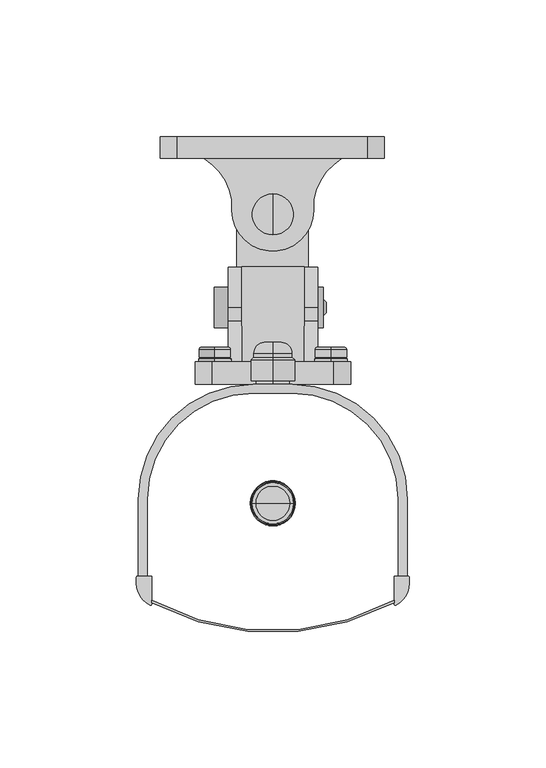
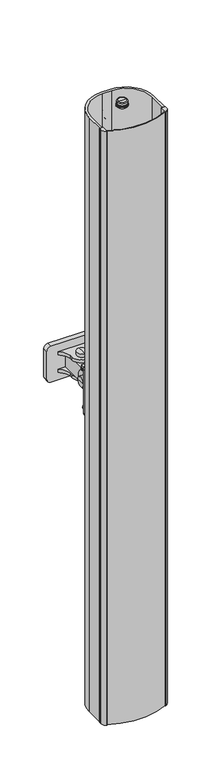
"""IFC4 building model written with IfcOpenShell, lengths in millimetres: proxy geometry, TS-C 50-1000_T-EN54 : TS-C 50-1000/T-EN54."""

from ifc_helpers import new_model, si_unit, point, frame, frame_2d, origin, place, context, project, spatial, polyline, circle_curve, ellipse_curve, trimmed, segment, composite_curve, outline, extrude, source, transform, mapped, element, save
from ifc_brep_helpers import plane_surface, cylinder_surface, revolved_surface, advanced_brep


def communication_devices_d0b5417b(model_context):
    return source(origin(), model_context, "Body", "SolidModel", [
        advanced_brep(
        [(-21.25, 9.0, 463.0997739), (-21.25, 9.0, 451.137496), (-21.25, 10.139588, 451.137496), (-21.25, 10.139588, 463.0997739), (-21.25, 9.0, 457.118635), (-21.25, 14.25, 462.1978352), (-21.25, 14.25, 452.0394348), (-21.25, 14.25, 457.118635), (-21.25, 13.5810517, 462.8667835), (-21.25, 13.5810517, 451.3704864), (-21.25, 10.600008, 462.8667835), (-21.25, 10.600008, 451.3704864), (-21.25, 10.600008, 461.8347804), (-21.25, 10.600008, 452.4024896)],
        [
            (0, 1, circle_curve(frame((-21.25, 9.0, 457.118635), z_axis=(0.0, 1.0, 0.0), x_axis=(0.0, 0.0, -1.0)), 5.981139)),
            (1, 2),
            (2, 3, circle_curve(frame((-21.25, 10.139588, 457.118635), z_axis=(0.0, -1.0, 0.0), x_axis=(0.0, 0.0, -1.0)), 5.981139)),
            (3, 0),
            (1, 0, circle_curve(frame((-21.25, 9.0, 457.118635), z_axis=(0.0, 1.0, 0.0), x_axis=(0.0, 0.0, -1.0)), 5.981139)),
            (3, 2, circle_curve(frame((-21.25, 10.139588, 457.118635), z_axis=(0.0, -1.0, 0.0), x_axis=(0.0, 0.0, -1.0)), 5.981139)),
            (4, 1),
            (0, 4),
            (5, 6, circle_curve(frame((-21.25, 14.25, 457.118635), z_axis=(0.0, 1.0, 0.0), x_axis=(0.0, 0.0, -1.0)), 5.0792002)),
            (6, 7),
            (7, 5),
            (6, 5, circle_curve(frame((-21.25, 14.25, 457.118635), z_axis=(0.0, 1.0, 0.0), x_axis=(0.0, 0.0, -1.0)), 5.0792002)),
            (8, 9, circle_curve(frame((-21.25, 13.5810517, 457.118635), z_axis=(0.0, 1.0, 0.0), x_axis=(0.0, 0.0, -1.0)), 5.7481485)),
            (9, 6, circle_curve(frame((-21.25, 13.5810517, 452.0394348), z_axis=(1.0, 0.0, 0.0), x_axis=(0.0, 1.0, 0.0)), 0.6689483)),
            (5, 8, circle_curve(frame((-21.25, 13.5810517, 462.1978352), z_axis=(1.0, 0.0, 0.0), x_axis=(0.0, 1.0, 0.0)), 0.6689483)),
            (9, 8, circle_curve(frame((-21.25, 13.5810517, 457.118635), z_axis=(0.0, 1.0, 0.0), x_axis=(0.0, 0.0, -1.0)), 5.7481485)),
            (10, 11, circle_curve(frame((-21.25, 10.600008, 457.118635), z_axis=(0.0, 1.0, 0.0), x_axis=(0.0, 0.0, -1.0)), 5.7481485)),
            (11, 9),
            (8, 10),
            (11, 10, circle_curve(frame((-21.25, 10.600008, 457.118635), z_axis=(0.0, 1.0, 0.0), x_axis=(0.0, 0.0, -1.0)), 5.7481485)),
            (12, 13, circle_curve(frame((-21.25, 10.600008, 457.118635), z_axis=(0.0, 1.0, 0.0), x_axis=(0.0, 0.0, -1.0)), 4.7161454)),
            (13, 11),
            (10, 12),
            (13, 12, circle_curve(frame((-21.25, 10.600008, 457.118635), z_axis=(0.0, 1.0, 0.0), x_axis=(0.0, 0.0, -1.0)), 4.7161454)),
            (2, 13),
            (12, 3),
        ],
        [
            cylinder_surface(frame((-21.25, 12.3716321, 457.118635), z_axis=(0.0, -1.0, 0.0), x_axis=(0.0, 0.0, -1.0)), 5.981139),
            plane_surface(frame((-21.25, 9.0, 457.118635), z_axis=(0.0, -1.0, 0.0), x_axis=(0.0, 0.0, -1.0))),
            plane_surface(frame((-21.25, 14.25, 457.118635), z_axis=(0.0, 1.0, 0.0), x_axis=(0.0, 0.0, -1.0))),
            revolved_surface(trimmed(ellipse_curve(frame((-21.25, 13.5810517, 452.0394348), z_axis=(-1.0, 0.0, 0.0), x_axis=(0.0, 1.0, 0.0)), 0.6689483, 0.6689483), [point((-21.25, 14.25, 452.0394348))], [point((-21.25, 13.5810517, 451.3704864))], True, "CARTESIAN"), (-21.25, 12.3716321, 457.118635), (0.0, -1.0, 0.0)),
            cylinder_surface(frame((-21.25, 12.3716321, 457.118635), z_axis=(0.0, -1.0, 0.0), x_axis=(0.0, 0.0, -1.0)), 5.7481485),
            plane_surface(frame((-21.25, 10.600008, 457.118635), z_axis=(0.0, -1.0, 0.0), x_axis=(0.0, 0.0, -1.0))),
            revolved_surface(polyline([(-21.25, 10.600008, 452.4024896), (-21.25, 10.139588, 451.137496)]), (-21.25, 12.3716321, 457.118635), (0.0, -1.0, 0.0)),
        ],
        [
            (0, [[1, 2, 3, 4]]),
            (0, [[5, -4, 6, -2]]),
            (1, [[7, -1, 8]]),
            (1, [[-8, -5, -7]]),
            (2, [[9, 10, 11]]),
            (2, [[12, -11, -10]]),
            (3, [[13, 14, -9, 15]]),
            (3, [[16, -15, -12, -14]]),
            (4, [[17, 18, -13, 19]]),
            (4, [[20, -19, -16, -18]]),
            (5, [[21, 22, -17, 23]]),
            (5, [[24, -23, -20, -22]]),
            (6, [[-3, 25, -21, 26]]),
            (6, [[-6, -26, -24, -25]]),
        ],
    ),
        advanced_brep(
        [(21.25, 10.139588, 463.0997739), (21.25, 10.139588, 451.137496), (21.25, 9.0, 451.137496), (21.25, 9.0, 463.0997739), (21.25, 9.0, 457.118635), (21.25, 14.25, 457.118635), (21.25, 14.25, 452.0394348), (21.25, 14.25, 462.1978352), (21.25, 13.5810517, 451.3704864), (21.25, 13.5810517, 462.8667835), (21.25, 10.600008, 451.3704864), (21.25, 10.600008, 462.8667835), (21.25, 10.600008, 452.4024896), (21.25, 10.600008, 461.8347804)],
        [
            (0, 1, circle_curve(frame((21.25, 10.139588, 457.118635), z_axis=(0.0, -1.0, 0.0), x_axis=(0.0, 0.0, -1.0)), 5.981139)),
            (1, 2),
            (2, 3, circle_curve(frame((21.25, 9.0, 457.118635), z_axis=(0.0, 1.0, 0.0), x_axis=(0.0, 0.0, -1.0)), 5.981139)),
            (3, 0),
            (1, 0, circle_curve(frame((21.25, 10.139588, 457.118635), z_axis=(0.0, -1.0, 0.0), x_axis=(0.0, 0.0, -1.0)), 5.981139)),
            (3, 2, circle_curve(frame((21.25, 9.0, 457.118635), z_axis=(0.0, 1.0, 0.0), x_axis=(0.0, 0.0, -1.0)), 5.981139)),
            (2, 4),
            (4, 3),
            (5, 6),
            (6, 7, circle_curve(frame((21.25, 14.25, 457.118635), z_axis=(0.0, 1.0, 0.0), x_axis=(0.0, 0.0, -1.0)), 5.0792002)),
            (7, 5),
            (7, 6, circle_curve(frame((21.25, 14.25, 457.118635), z_axis=(0.0, 1.0, 0.0), x_axis=(0.0, 0.0, -1.0)), 5.0792002)),
            (6, 8, circle_curve(frame((21.25, 13.5810517, 452.0394348), z_axis=(-1.0, 0.0, 0.0), x_axis=(0.0, 1.0, 0.0)), 0.6689483)),
            (8, 9, circle_curve(frame((21.25, 13.5810517, 457.118635), z_axis=(0.0, 1.0, 0.0), x_axis=(0.0, 0.0, -1.0)), 5.7481485)),
            (9, 7, circle_curve(frame((21.25, 13.5810517, 462.1978352), z_axis=(-1.0, 0.0, 0.0), x_axis=(0.0, 1.0, 0.0)), 0.6689483)),
            (9, 8, circle_curve(frame((21.25, 13.5810517, 457.118635), z_axis=(0.0, 1.0, 0.0), x_axis=(0.0, 0.0, -1.0)), 5.7481485)),
            (8, 10),
            (10, 11, circle_curve(frame((21.25, 10.600008, 457.118635), z_axis=(0.0, 1.0, 0.0), x_axis=(0.0, 0.0, -1.0)), 5.7481485)),
            (11, 9),
            (11, 10, circle_curve(frame((21.25, 10.600008, 457.118635), z_axis=(0.0, 1.0, 0.0), x_axis=(0.0, 0.0, -1.0)), 5.7481485)),
            (10, 12),
            (12, 13, circle_curve(frame((21.25, 10.600008, 457.118635), z_axis=(0.0, 1.0, 0.0), x_axis=(0.0, 0.0, -1.0)), 4.7161454)),
            (13, 11),
            (13, 12, circle_curve(frame((21.25, 10.600008, 457.118635), z_axis=(0.0, 1.0, 0.0), x_axis=(0.0, 0.0, -1.0)), 4.7161454)),
            (12, 1),
            (0, 13),
        ],
        [
            cylinder_surface(frame((21.25, 12.3716321, 457.118635), z_axis=(0.0, 1.0, 0.0), x_axis=(0.0, 0.0, -1.0)), 5.981139),
            plane_surface(frame((21.25, 9.0, 457.118635), z_axis=(0.0, -1.0, 0.0), x_axis=(0.0, 0.0, -1.0))),
            plane_surface(frame((21.25, 14.25, 457.118635), z_axis=(0.0, 1.0, 0.0), x_axis=(0.0, 0.0, -1.0))),
            revolved_surface(trimmed(ellipse_curve(frame((21.25, 13.5810517, 452.0394348), z_axis=(1.0, 0.0, 0.0), x_axis=(0.0, 1.0, 0.0)), 0.6689483, 0.6689483), [point((21.25, 13.5810517, 451.3704864))], [point((21.25, 14.25, 452.0394348))], True, "CARTESIAN"), (21.25, 12.3716321, 457.118635), (0.0, 1.0, 0.0)),
            cylinder_surface(frame((21.25, 12.3716321, 457.118635), z_axis=(0.0, 1.0, 0.0), x_axis=(0.0, 0.0, -1.0)), 5.7481485),
            plane_surface(frame((21.25, 10.600008, 457.118635), z_axis=(0.0, -1.0, 0.0), x_axis=(0.0, 0.0, -1.0))),
            revolved_surface(polyline([(21.25, 10.139588, 451.137496), (21.25, 10.600008, 452.4024896)]), (21.25, 12.3716321, 457.118635), (0.0, 1.0, 0.0)),
        ],
        [
            (0, [[1, 2, 3, 4]]),
            (0, [[5, -4, 6, -2]]),
            (1, [[-3, 7, 8]]),
            (1, [[-6, -8, -7]]),
            (2, [[9, 10, 11]]),
            (2, [[-11, 12, -9]]),
            (3, [[-10, 13, 14, 15]]),
            (3, [[-12, -15, 16, -13]]),
            (4, [[-14, 17, 18, 19]]),
            (4, [[-16, -19, 20, -17]]),
            (5, [[-18, 21, 22, 23]]),
            (5, [[-20, -23, 24, -21]]),
            (6, [[-22, 25, -1, 26]]),
            (6, [[-24, -26, -5, -25]]),
        ],
    ),
        advanced_brep(
        [(0.0, 61.007476, 467.199996), (0.0, 64.992524, 467.199996), (0.0, 63.0, 467.199996), (0.0, 60.007476, 468.199996), (0.0, 65.992524, 468.199996), (0.0, 55.5, 468.199996), (0.0, 70.5, 468.199996), (0.0, 55.5, 508.199996), (0.0, 70.5, 508.199996), (0.0, 63.0, 508.199996)],
        [
            (0, 1, circle_curve(frame((0.0, 63.0, 467.199996), z_axis=(0.0, 0.0, -1.0), x_axis=(0.0, 1.0, 0.0)), 1.992524)),
            (1, 2),
            (2, 0),
            (1, 0, circle_curve(frame((0.0, 63.0, 467.199996), z_axis=(0.0, 0.0, -1.0), x_axis=(0.0, 1.0, 0.0)), 1.992524)),
            (3, 4, circle_curve(frame((0.0, 63.0, 468.199996), z_axis=(0.0, 0.0, -1.0), x_axis=(0.0, 1.0, 0.0)), 2.992524)),
            (4, 1),
            (0, 3),
            (4, 3, circle_curve(frame((0.0, 63.0, 468.199996), z_axis=(0.0, 0.0, -1.0), x_axis=(0.0, 1.0, 0.0)), 2.992524)),
            (5, 6, circle_curve(frame((0.0, 63.0, 468.199996), z_axis=(0.0, 0.0, -1.0), x_axis=(0.0, 1.0, 0.0)), 7.5)),
            (6, 4),
            (3, 5),
            (6, 5, circle_curve(frame((0.0, 63.0, 468.199996), z_axis=(0.0, 0.0, -1.0), x_axis=(0.0, 1.0, 0.0)), 7.5)),
            (7, 8, circle_curve(frame((0.0, 63.0, 508.199996), z_axis=(0.0, 0.0, -1.0), x_axis=(0.0, 1.0, 0.0)), 7.5)),
            (8, 6),
            (5, 7),
            (8, 7, circle_curve(frame((0.0, 63.0, 508.199996), z_axis=(0.0, 0.0, -1.0), x_axis=(0.0, 1.0, 0.0)), 7.5)),
            (9, 8),
            (7, 9),
        ],
        [
            plane_surface(frame((0.0, 63.0, 467.199996), z_axis=(0.0, 0.0, -1.0), x_axis=(0.0, 1.0, 0.0))),
            revolved_surface(polyline([(0.0, 64.992524, 467.199996), (0.0, 65.992524, 468.199996)]), (0.0, 63.0, 481.5973632), (0.0, 0.0, 1.0)),
            plane_surface(frame((0.0, 63.0, 468.199996), z_axis=(0.0, 0.0, -1.0), x_axis=(0.0, 1.0, 0.0))),
            cylinder_surface(frame((0.0, 63.0, 481.5973632), z_axis=(0.0, 0.0, 1.0), x_axis=(0.0, 1.0, 0.0)), 7.5),
            plane_surface(frame((0.0, 63.0, 508.199996), z_axis=(0.0, 0.0, 1.0), x_axis=(0.0, 1.0, 0.0))),
        ],
        [
            (0, [[1, 2, 3]]),
            (0, [[4, -3, -2]]),
            (1, [[5, 6, -1, 7]]),
            (1, [[8, -7, -4, -6]]),
            (2, [[9, 10, -5, 11]]),
            (2, [[12, -11, -8, -10]]),
            (3, [[13, 14, -9, 15]]),
            (3, [[16, -15, -12, -14]]),
            (4, [[17, -13, 18]]),
            (4, [[-18, -16, -17]]),
        ],
    ),
        advanced_brep(
        [(-21.5, 21.375002, 486.875), (-21.5, 36.375, 486.875), (18.5, 36.375, 486.875), (18.5, 21.375002, 486.875), (-21.5, 28.875001, 486.875), (19.5, 26.882478, 486.875), (19.5, 30.867524, 486.875), (19.5, 28.875001, 486.875), (18.5, 25.882478, 486.875), (18.5, 31.867524, 486.875)],
        [
            (0, 1, circle_curve(frame((-21.5, 28.875001, 486.875), z_axis=(1.0, 0.0, 0.0), x_axis=(0.0, 1.0, 0.0)), 7.499999)),
            (1, 2),
            (2, 3, circle_curve(frame((18.5, 28.875001, 486.875), z_axis=(-1.0, 0.0, 0.0), x_axis=(0.0, 1.0, 0.0)), 7.499999)),
            (3, 0),
            (1, 0, circle_curve(frame((-21.5, 28.875001, 486.875), z_axis=(1.0, 0.0, 0.0), x_axis=(0.0, 1.0, 0.0)), 7.499999)),
            (3, 2, circle_curve(frame((18.5, 28.875001, 486.875), z_axis=(-1.0, 0.0, 0.0), x_axis=(0.0, 1.0, 0.0)), 7.499999)),
            (4, 1),
            (0, 4),
            (5, 6, circle_curve(frame((19.5, 28.875001, 486.875), z_axis=(1.0, 0.0, 0.0), x_axis=(0.0, 1.0, 0.0)), 1.992523)),
            (6, 7),
            (7, 5),
            (6, 5, circle_curve(frame((19.5, 28.875001, 486.875), z_axis=(1.0, 0.0, 0.0), x_axis=(0.0, 1.0, 0.0)), 1.992523)),
            (8, 9, circle_curve(frame((18.5, 28.875001, 486.875), z_axis=(1.0, 0.0, 0.0), x_axis=(0.0, 1.0, 0.0)), 2.992523)),
            (9, 6),
            (5, 8),
            (9, 8, circle_curve(frame((18.5, 28.875001, 486.875), z_axis=(1.0, 0.0, 0.0), x_axis=(0.0, 1.0, 0.0)), 2.992523)),
            (2, 9),
            (8, 3),
        ],
        [
            cylinder_surface(frame((-3.4349086, 28.875001, 486.875), z_axis=(-1.0, 0.0, 0.0), x_axis=(0.0, 1.0, 0.0)), 7.499999),
            plane_surface(frame((-21.5, 28.875001, 486.875), z_axis=(-1.0, 0.0, 0.0), x_axis=(0.0, 1.0, 0.0))),
            plane_surface(frame((19.5, 28.875001, 486.875), z_axis=(1.0, 0.0, 0.0), x_axis=(0.0, 1.0, 0.0))),
            revolved_surface(polyline([(19.5, 30.867524, 486.875), (18.5, 31.867524, 486.875)]), (-3.4349086, 28.875001, 486.875), (-1.0, 0.0, 0.0)),
            plane_surface(frame((18.5, 28.875001, 486.875), z_axis=(1.0, 0.0, 0.0), x_axis=(0.0, 1.0, 0.0))),
        ],
        [
            (0, [[1, 2, 3, 4]]),
            (0, [[5, -4, 6, -2]]),
            (1, [[7, -1, 8]]),
            (1, [[-8, -5, -7]]),
            (2, [[9, 10, 11]]),
            (2, [[12, -11, -10]]),
            (3, [[13, 14, -9, 15]]),
            (3, [[16, -15, -12, -14]]),
            (4, [[-3, 17, -13, 18]]),
            (4, [[-6, -18, -16, -17]]),
        ],
    ),
        extrude(outline(composite_curve([segment(trimmed(circle_curve(frame_2d((509.199996, -35.2248208)), 6.0), [point((515.199996, -35.2248208))], [point((509.199996, -41.2248208))], False, "CARTESIAN"), True, "CONTINUOUS"), segment(polyline([(509.199996, -41.2248208), (464.199996, -41.2248208)]), True, "CONTINUOUS"), segment(trimmed(circle_curve(frame_2d((464.199996, -35.2248208)), 6.0), [point((464.199996, -41.2248208))], [point((458.199996, -35.2248208))], False, "CARTESIAN"), True, "CONTINUOUS"), segment(polyline([(458.199996, -35.2248208), (458.199996, 34.7751792)]), True, "CONTINUOUS"), segment(trimmed(circle_curve(frame_2d((464.199996, 34.7751792)), 6.0), [point((458.199996, 34.7751792))], [point((464.199996, 40.7751792))], False, "CARTESIAN"), True, "CONTINUOUS"), segment(polyline([(464.199996, 40.7751792), (509.199996, 40.7751792)]), True, "CONTINUOUS"), segment(trimmed(circle_curve(frame_2d((509.199996, 34.7751792)), 6.0), [point((509.199996, 40.7751792))], [point((515.199996, 34.7751792))], False, "CARTESIAN"), True, "CONTINUOUS"), segment(polyline([(515.199996, 34.7751792), (515.199996, -35.2248208)]), True, "CONTINUOUS")], self_intersect=False)), frame((0.0, 83.5, 0.0), z_axis=(0.0, 1.0, 0.0), x_axis=(0.0, 0.0, 1.0)), (0.0, 0.0, 1.0), 8.0),
        extrude(outline(polyline([(-13.2981208, 43.774882), (-13.2981208, 83.5), (13.0, 83.5), (13.0, 43.774882), (-13.2981208, 43.774882)])), frame((0.0, 0.0, 475.2284716), z_axis=(0.0, 0.0, 1.0), x_axis=(1.0, 0.0, 0.0)), (0.0, 0.0, 1.0), 22.9715244),
        extrude(outline(polyline([(11.5, 43.774882), (11.5, 9.0), (-11.421106, 9.0), (-11.421106, 43.774882), (11.5, 43.774882)])), frame((0.0, 0.0, 470.2284716), z_axis=(0.0, 0.0, 1.0), x_axis=(1.0, 0.0, 0.0)), (0.0, 0.0, 1.0), 31.4715244),
        extrude(outline(composite_curve([segment(trimmed(circle_curve(frame_2d((28.774882, 486.699996)), 15.0), [point((28.774882, 501.699996))], [point((28.774882, 471.699996))], False, "CARTESIAN"), True, "CONTINUOUS"), segment(polyline([(28.774882, 471.699996), (24.01576, 471.699996)]), True, "CONTINUOUS"), segment(trimmed(circle_curve(frame_2d((27.899538, 449.92778)), 22.115902), [point((24.01576, 471.699996))], [point((9.0, 461.4134487))], True, "CARTESIAN"), True, "CONTINUOUS"), segment(polyline([(9.0, 461.4134487), (9.0, 511.9865453)]), True, "CONTINUOUS"), segment(trimmed(circle_curve(frame_2d((27.899538, 523.472214)), 22.115902), [point((9.0, 511.9865453))], [point((24.0157712, 501.699996))], True, "CARTESIAN"), True, "CONTINUOUS"), segment(polyline([(24.0157712, 501.699996), (28.774882, 501.699996)]), True, "CONTINUOUS")], self_intersect=False)), frame((-16.421106, 0.0, 0.0), z_axis=(1.0, 0.0, 0.0), x_axis=(0.0, 1.0, 0.0)), (0.0, 0.0, 1.0), 5.0),
        extrude(outline(composite_curve([segment(trimmed(circle_curve(frame_2d((0.0, 64.5832153)), 15.0), [point((15.0, 64.5832153))], [point((-15.0, 64.5832153))], False, "CARTESIAN"), True, "CONTINUOUS"), segment(polyline([(-15.0, 64.5832153), (-15.0, 68.4842168)]), True, "CONTINUOUS"), segment(trimmed(circle_curve(frame_2d((-36.772218, 64.60045)), 22.115902), [point((-15.0, 68.4842168))], [point((-25.2865691, 83.5))], True, "CARTESIAN"), True, "CONTINUOUS"), segment(polyline([(-25.2865691, 83.5), (25.2865671, 83.5)]), True, "CONTINUOUS"), segment(trimmed(circle_curve(frame_2d((36.772216, 64.60045)), 22.115902), [point((25.2865671, 83.5))], [point((15.0, 68.484228))], True, "CARTESIAN"), True, "CONTINUOUS"), segment(polyline([(15.0, 68.484228), (15.0, 64.5832153)]), True, "CONTINUOUS")], self_intersect=False)), frame((0.0, 0.0, 470.2284716), z_axis=(0.0, 0.0, 1.0), x_axis=(1.0, 0.0, 0.0)), (0.0, 0.0, 1.0), 5.0),
        extrude(outline(composite_curve([segment(trimmed(circle_curve(frame_2d((0.0, 64.5832153)), 15.0), [point((15.0, 64.5832153))], [point((-15.0, 64.5832153))], False, "CARTESIAN"), True, "CONTINUOUS"), segment(polyline([(-15.0, 64.5832153), (-15.0, 68.4842168)]), True, "CONTINUOUS"), segment(trimmed(circle_curve(frame_2d((-36.772218, 64.60045)), 22.115902), [point((-15.0, 68.4842168))], [point((-25.2865691, 83.5))], True, "CARTESIAN"), True, "CONTINUOUS"), segment(polyline([(-25.2865691, 83.5), (25.2865671, 83.5)]), True, "CONTINUOUS"), segment(trimmed(circle_curve(frame_2d((36.772216, 64.60045)), 22.115902), [point((25.2865671, 83.5))], [point((15.0, 68.484228))], True, "CARTESIAN"), True, "CONTINUOUS"), segment(polyline([(15.0, 68.484228), (15.0, 64.5832153)]), True, "CONTINUOUS")], self_intersect=False)), frame((0.0, 0.0, 498.199996), z_axis=(0.0, 0.0, 1.0), x_axis=(1.0, 0.0, 0.0)), (0.0, 0.0, 1.0), 5.0),
        extrude(outline(composite_curve([segment(trimmed(circle_curve(frame_2d((28.774882, 486.699996)), 15.0), [point((28.774882, 501.699996))], [point((28.774882, 471.699996))], False, "CARTESIAN"), True, "CONTINUOUS"), segment(polyline([(28.774882, 471.699996), (24.01576, 471.699996)]), True, "CONTINUOUS"), segment(trimmed(circle_curve(frame_2d((27.899538, 449.92778)), 22.115902), [point((24.01576, 471.699996))], [point((9.0, 461.4134487))], True, "CARTESIAN"), True, "CONTINUOUS"), segment(polyline([(9.0, 461.4134487), (9.0, 511.9865453)]), True, "CONTINUOUS"), segment(trimmed(circle_curve(frame_2d((27.899538, 523.472214)), 22.115902), [point((9.0, 511.9865453))], [point((24.0157712, 501.699996))], True, "CARTESIAN"), True, "CONTINUOUS"), segment(polyline([(24.0157712, 501.699996), (28.774882, 501.699996)]), True, "CONTINUOUS")], self_intersect=False)), frame((11.5, 0.0, 0.0), z_axis=(1.0, 0.0, 0.0), x_axis=(0.0, 1.0, 0.0)), (0.0, 0.0, 1.0), 5.0),
        extrude(outline(composite_curve([segment(trimmed(circle_curve(frame_2d((521.614283, -22.414287)), 6.085713), [point((527.699996, -22.414287))], [point((521.614283, -28.5))], False, "CARTESIAN"), True, "CONTINUOUS"), segment(polyline([(521.614283, -28.5), (451.799996, -28.5)]), True, "CONTINUOUS"), segment(trimmed(circle_curve(frame_2d((451.799996, -22.4)), 6.1), [point((451.799996, -28.5))], [point((445.699996, -22.4))], False, "CARTESIAN"), True, "CONTINUOUS"), segment(polyline([(445.699996, -22.4), (445.699996, 22.4)]), True, "CONTINUOUS"), segment(trimmed(circle_curve(frame_2d((451.799996, 22.4)), 6.1), [point((445.699996, 22.4))], [point((451.799996, 28.5))], False, "CARTESIAN"), True, "CONTINUOUS"), segment(polyline([(451.799996, 28.5), (521.599996, 28.5)]), True, "CONTINUOUS"), segment(trimmed(circle_curve(frame_2d((521.599996, 22.4)), 6.1), [point((521.599996, 28.5))], [point((527.699996, 22.4))], False, "CARTESIAN"), True, "CONTINUOUS"), segment(polyline([(527.699996, 22.4), (527.699996, -22.414287)]), True, "CONTINUOUS")], self_intersect=False)), frame((0.0, 0.6574121, 0.0), z_axis=(0.0, 1.0, 0.0), x_axis=(0.0, 0.0, 1.0)), (0.0, 0.0, 1.0), 8.3425879),
        advanced_brep(
        [(-21.25, 10.139588, 510.4877181), (-21.25, 10.139588, 522.449996), (-21.25, 9.0, 522.449996), (-21.25, 9.0, 510.4877181), (-21.25, 9.0, 516.468857), (-21.25, 14.25, 516.468857), (-21.25, 14.25, 521.5480572), (-21.25, 14.25, 511.3896568), (-21.25, 13.5810517, 522.2170056), (-21.25, 13.5810517, 510.7207085), (-21.25, 10.600008, 522.2170056), (-21.25, 10.600008, 510.7207085), (-21.25, 10.600008, 521.1850024), (-21.25, 10.600008, 511.7527116)],
        [
            (0, 1, circle_curve(frame((-21.25, 10.139588, 516.468857), z_axis=(0.0, -1.0, 0.0), x_axis=(0.0, 0.0, 1.0)), 5.981139)),
            (1, 2),
            (2, 3, circle_curve(frame((-21.25, 9.0, 516.468857), z_axis=(0.0, 1.0, 0.0), x_axis=(0.0, 0.0, 1.0)), 5.981139)),
            (3, 0),
            (1, 0, circle_curve(frame((-21.25, 10.139588, 516.468857), z_axis=(0.0, -1.0, 0.0), x_axis=(0.0, 0.0, 1.0)), 5.981139)),
            (3, 2, circle_curve(frame((-21.25, 9.0, 516.468857), z_axis=(0.0, 1.0, 0.0), x_axis=(0.0, 0.0, 1.0)), 5.981139)),
            (2, 4),
            (4, 3),
            (5, 6),
            (6, 7, circle_curve(frame((-21.25, 14.25, 516.468857), z_axis=(0.0, 1.0, 0.0), x_axis=(0.0, 0.0, 1.0)), 5.0792002)),
            (7, 5),
            (7, 6, circle_curve(frame((-21.25, 14.25, 516.468857), z_axis=(0.0, 1.0, 0.0), x_axis=(0.0, 0.0, 1.0)), 5.0792002)),
            (6, 8, circle_curve(frame((-21.25, 13.5810517, 521.5480572), z_axis=(1.0, 0.0, 0.0), x_axis=(0.0, 1.0, 0.0)), 0.6689483)),
            (8, 9, circle_curve(frame((-21.25, 13.5810517, 516.468857), z_axis=(0.0, 1.0, 0.0), x_axis=(0.0, 0.0, 1.0)), 5.7481485)),
            (9, 7, circle_curve(frame((-21.25, 13.5810517, 511.3896568), z_axis=(1.0, 0.0, 0.0), x_axis=(0.0, 1.0, 0.0)), 0.6689483)),
            (9, 8, circle_curve(frame((-21.25, 13.5810517, 516.468857), z_axis=(0.0, 1.0, 0.0), x_axis=(0.0, 0.0, 1.0)), 5.7481485)),
            (8, 10),
            (10, 11, circle_curve(frame((-21.25, 10.600008, 516.468857), z_axis=(0.0, 1.0, 0.0), x_axis=(0.0, 0.0, 1.0)), 5.7481485)),
            (11, 9),
            (11, 10, circle_curve(frame((-21.25, 10.600008, 516.468857), z_axis=(0.0, 1.0, 0.0), x_axis=(0.0, 0.0, 1.0)), 5.7481485)),
            (10, 12),
            (12, 13, circle_curve(frame((-21.25, 10.600008, 516.468857), z_axis=(0.0, 1.0, 0.0), x_axis=(0.0, 0.0, 1.0)), 4.7161454)),
            (13, 11),
            (13, 12, circle_curve(frame((-21.25, 10.600008, 516.468857), z_axis=(0.0, 1.0, 0.0), x_axis=(0.0, 0.0, 1.0)), 4.7161454)),
            (12, 1),
            (0, 13),
        ],
        [
            cylinder_surface(frame((-21.25, 12.3716321, 516.468857), z_axis=(0.0, 1.0, 0.0), x_axis=(0.0, 0.0, 1.0)), 5.981139),
            plane_surface(frame((-21.25, 9.0, 516.468857), z_axis=(0.0, -1.0, 0.0), x_axis=(0.0, 0.0, 1.0))),
            plane_surface(frame((-21.25, 14.25, 516.468857), z_axis=(0.0, 1.0, 0.0), x_axis=(0.0, 0.0, 1.0))),
            revolved_surface(trimmed(ellipse_curve(frame((-21.25, 13.5810517, 521.5480572), z_axis=(-1.0, 0.0, 0.0), x_axis=(0.0, 1.0, 0.0)), 0.6689483, 0.6689483), [point((-21.25, 13.5810517, 522.2170056))], [point((-21.25, 14.25, 521.5480572))], True, "CARTESIAN"), (-21.25, 12.3716321, 516.468857), (0.0, 1.0, 0.0)),
            cylinder_surface(frame((-21.25, 12.3716321, 516.468857), z_axis=(0.0, 1.0, 0.0), x_axis=(0.0, 0.0, 1.0)), 5.7481485),
            plane_surface(frame((-21.25, 10.600008, 516.468857), z_axis=(0.0, -1.0, 0.0), x_axis=(0.0, 0.0, 1.0))),
            revolved_surface(polyline([(-21.25, 10.139588, 522.449996), (-21.25, 10.600008, 521.1850024)]), (-21.25, 12.3716321, 516.468857), (0.0, 1.0, 0.0)),
        ],
        [
            (0, [[1, 2, 3, 4]]),
            (0, [[5, -4, 6, -2]]),
            (1, [[-3, 7, 8]]),
            (1, [[-6, -8, -7]]),
            (2, [[9, 10, 11]]),
            (2, [[-11, 12, -9]]),
            (3, [[-10, 13, 14, 15]]),
            (3, [[-12, -15, 16, -13]]),
            (4, [[-14, 17, 18, 19]]),
            (4, [[-16, -19, 20, -17]]),
            (5, [[-18, 21, 22, 23]]),
            (5, [[-20, -23, 24, -21]]),
            (6, [[-22, 25, -1, 26]]),
            (6, [[-24, -26, -5, -25]]),
        ],
    ),
        advanced_brep(
        [(21.25, 9.0, 510.4877181), (21.25, 9.0, 522.449996), (21.25, 10.139588, 522.449996), (21.25, 10.139588, 510.4877181), (21.25, 9.0, 516.468857), (21.25, 14.25, 511.3896568), (21.25, 14.25, 521.5480572), (21.25, 14.25, 516.468857), (21.25, 13.5810517, 510.7207085), (21.25, 13.5810517, 522.2170056), (21.25, 10.600008, 510.7207085), (21.25, 10.600008, 522.2170056), (21.25, 10.600008, 511.7527116), (21.25, 10.600008, 521.1850024)],
        [
            (0, 1, circle_curve(frame((21.25, 9.0, 516.468857), z_axis=(0.0, 1.0, 0.0), x_axis=(0.0, 0.0, 1.0)), 5.981139)),
            (1, 2),
            (2, 3, circle_curve(frame((21.25, 10.139588, 516.468857), z_axis=(0.0, -1.0, 0.0), x_axis=(0.0, 0.0, 1.0)), 5.981139)),
            (3, 0),
            (1, 0, circle_curve(frame((21.25, 9.0, 516.468857), z_axis=(0.0, 1.0, 0.0), x_axis=(0.0, 0.0, 1.0)), 5.981139)),
            (3, 2, circle_curve(frame((21.25, 10.139588, 516.468857), z_axis=(0.0, -1.0, 0.0), x_axis=(0.0, 0.0, 1.0)), 5.981139)),
            (4, 1),
            (0, 4),
            (5, 6, circle_curve(frame((21.25, 14.25, 516.468857), z_axis=(0.0, 1.0, 0.0), x_axis=(0.0, 0.0, 1.0)), 5.0792002)),
            (6, 7),
            (7, 5),
            (6, 5, circle_curve(frame((21.25, 14.25, 516.468857), z_axis=(0.0, 1.0, 0.0), x_axis=(0.0, 0.0, 1.0)), 5.0792002)),
            (8, 9, circle_curve(frame((21.25, 13.5810517, 516.468857), z_axis=(0.0, 1.0, 0.0), x_axis=(0.0, 0.0, 1.0)), 5.7481485)),
            (9, 6, circle_curve(frame((21.25, 13.5810517, 521.5480572), z_axis=(-1.0, 0.0, 0.0), x_axis=(0.0, 1.0, 0.0)), 0.6689483)),
            (5, 8, circle_curve(frame((21.25, 13.5810517, 511.3896568), z_axis=(-1.0, 0.0, 0.0), x_axis=(0.0, 1.0, 0.0)), 0.6689483)),
            (9, 8, circle_curve(frame((21.25, 13.5810517, 516.468857), z_axis=(0.0, 1.0, 0.0), x_axis=(0.0, 0.0, 1.0)), 5.7481485)),
            (10, 11, circle_curve(frame((21.25, 10.600008, 516.468857), z_axis=(0.0, 1.0, 0.0), x_axis=(0.0, 0.0, 1.0)), 5.7481485)),
            (11, 9),
            (8, 10),
            (11, 10, circle_curve(frame((21.25, 10.600008, 516.468857), z_axis=(0.0, 1.0, 0.0), x_axis=(0.0, 0.0, 1.0)), 5.7481485)),
            (12, 13, circle_curve(frame((21.25, 10.600008, 516.468857), z_axis=(0.0, 1.0, 0.0), x_axis=(0.0, 0.0, 1.0)), 4.7161454)),
            (13, 11),
            (10, 12),
            (13, 12, circle_curve(frame((21.25, 10.600008, 516.468857), z_axis=(0.0, 1.0, 0.0), x_axis=(0.0, 0.0, 1.0)), 4.7161454)),
            (2, 13),
            (12, 3),
        ],
        [
            cylinder_surface(frame((21.25, 12.3716321, 516.468857), z_axis=(0.0, -1.0, 0.0), x_axis=(0.0, 0.0, 1.0)), 5.981139),
            plane_surface(frame((21.25, 9.0, 516.468857), z_axis=(0.0, -1.0, 0.0), x_axis=(0.0, 0.0, 1.0))),
            plane_surface(frame((21.25, 14.25, 516.468857), z_axis=(0.0, 1.0, 0.0), x_axis=(0.0, 0.0, 1.0))),
            revolved_surface(trimmed(ellipse_curve(frame((21.25, 13.5810517, 521.5480572), z_axis=(1.0, 0.0, 0.0), x_axis=(0.0, 1.0, 0.0)), 0.6689483, 0.6689483), [point((21.25, 14.25, 521.5480572))], [point((21.25, 13.5810517, 522.2170056))], True, "CARTESIAN"), (21.25, 12.3716321, 516.468857), (0.0, -1.0, 0.0)),
            cylinder_surface(frame((21.25, 12.3716321, 516.468857), z_axis=(0.0, -1.0, 0.0), x_axis=(0.0, 0.0, 1.0)), 5.7481485),
            plane_surface(frame((21.25, 10.600008, 516.468857), z_axis=(0.0, -1.0, 0.0), x_axis=(0.0, 0.0, 1.0))),
            revolved_surface(polyline([(21.25, 10.600008, 521.1850024), (21.25, 10.139588, 522.449996)]), (21.25, 12.3716321, 516.468857), (0.0, -1.0, 0.0)),
        ],
        [
            (0, [[1, 2, 3, 4]]),
            (0, [[5, -4, 6, -2]]),
            (1, [[7, -1, 8]]),
            (1, [[-8, -5, -7]]),
            (2, [[9, 10, 11]]),
            (2, [[12, -11, -10]]),
            (3, [[13, 14, -9, 15]]),
            (3, [[16, -15, -12, -14]]),
            (4, [[17, 18, -13, 19]]),
            (4, [[20, -19, -16, -18]]),
            (5, [[21, 22, -17, 23]]),
            (5, [[24, -23, -20, -22]]),
            (6, [[-3, 25, -21, 26]]),
            (6, [[-6, -26, -24, -25]]),
        ],
    ),
        advanced_brep(
        [(0.0, 0.5458566, 899.9487199), (0.0, 0.5458566, 911.949996), (0.0, 2.0, 911.949996), (0.0, 2.0, 899.9487199), (0.0, 0.5458566, 905.949358), (0.0, 16.0, 902.8577378), (0.0, 16.0, 909.0409782), (0.0, 16.0, 905.949358), (0.0, 12.0909822, 898.9487199), (0.0, 12.0909822, 912.949996), (0.0, 10.600008, 898.9487199), (0.0, 10.600008, 912.949996), (0.0, 9.600008, 897.9487199), (0.0, 9.600008, 913.949996), (0.0, 2.0, 897.9487199), (0.0, 2.0, 913.949996)],
        [
            (0, 1, circle_curve(frame((0.0, 0.5458566, 905.949358), z_axis=(0.0, 1.0, 0.0), x_axis=(0.0, 0.0, 1.0)), 6.000638)),
            (1, 2),
            (2, 3, circle_curve(frame((0.0, 2.0, 905.949358), z_axis=(0.0, -1.0, 0.0), x_axis=(0.0, 0.0, 1.0)), 6.000638)),
            (3, 0),
            (1, 0, circle_curve(frame((0.0, 0.5458566, 905.949358), z_axis=(0.0, 1.0, 0.0), x_axis=(0.0, 0.0, 1.0)), 6.000638)),
            (3, 2, circle_curve(frame((0.0, 2.0, 905.949358), z_axis=(0.0, -1.0, 0.0), x_axis=(0.0, 0.0, 1.0)), 6.000638)),
            (4, 1),
            (0, 4),
            (5, 6, circle_curve(frame((0.0, 16.0, 905.949358), z_axis=(0.0, 1.0, 0.0), x_axis=(0.0, 0.0, 1.0)), 3.0916202)),
            (6, 7),
            (7, 5),
            (6, 5, circle_curve(frame((0.0, 16.0, 905.949358), z_axis=(0.0, 1.0, 0.0), x_axis=(0.0, 0.0, 1.0)), 3.0916202)),
            (8, 9, circle_curve(frame((0.0, 12.0909822, 905.949358), z_axis=(0.0, 1.0, 0.0), x_axis=(0.0, 0.0, 1.0)), 7.000638)),
            (9, 6, circle_curve(frame((0.0, 12.0909822, 909.0409782), z_axis=(-1.0, 0.0, 0.0), x_axis=(0.0, 1.0, 0.0)), 3.9090178)),
            (5, 8, circle_curve(frame((0.0, 12.0909822, 902.8577378), z_axis=(-1.0, 0.0, 0.0), x_axis=(0.0, 1.0, 0.0)), 3.9090178)),
            (9, 8, circle_curve(frame((0.0, 12.0909822, 905.949358), z_axis=(0.0, 1.0, 0.0), x_axis=(0.0, 0.0, 1.0)), 7.000638)),
            (10, 11, circle_curve(frame((0.0, 10.600008, 905.949358), z_axis=(0.0, 1.0, 0.0), x_axis=(0.0, 0.0, 1.0)), 7.000638)),
            (11, 9),
            (8, 10),
            (11, 10, circle_curve(frame((0.0, 10.600008, 905.949358), z_axis=(0.0, 1.0, 0.0), x_axis=(0.0, 0.0, 1.0)), 7.000638)),
            (12, 13, circle_curve(frame((0.0, 9.600008, 905.949358), z_axis=(0.0, 1.0, 0.0), x_axis=(0.0, 0.0, 1.0)), 8.000638)),
            (13, 11),
            (10, 12),
            (13, 12, circle_curve(frame((0.0, 9.600008, 905.949358), z_axis=(0.0, 1.0, 0.0), x_axis=(0.0, 0.0, 1.0)), 8.000638)),
            (14, 15, circle_curve(frame((0.0, 2.0, 905.949358), z_axis=(0.0, 1.0, 0.0), x_axis=(0.0, 0.0, 1.0)), 8.000638)),
            (15, 13),
            (12, 14),
            (15, 14, circle_curve(frame((0.0, 2.0, 905.949358), z_axis=(0.0, 1.0, 0.0), x_axis=(0.0, 0.0, 1.0)), 8.000638)),
            (2, 15),
            (14, 3),
        ],
        [
            cylinder_surface(frame((0.0, 3.9079042, 905.949358), z_axis=(0.0, -1.0, 0.0), x_axis=(0.0, 0.0, 1.0)), 6.000638),
            plane_surface(frame((0.0, 0.5458566, 905.949358), z_axis=(0.0, -1.0, 0.0), x_axis=(0.0, 0.0, 1.0))),
            plane_surface(frame((0.0, 16.0, 905.949358), z_axis=(0.0, 1.0, 0.0), x_axis=(0.0, 0.0, 1.0))),
            revolved_surface(trimmed(ellipse_curve(frame((0.0, 12.0909822, 909.0409782), z_axis=(1.0, 0.0, 0.0), x_axis=(0.0, 1.0, 0.0)), 3.9090178, 3.9090178), [point((0.0, 16.0, 909.0409782))], [point((0.0, 12.0909822, 912.949996))], True, "CARTESIAN"), (0.0, 3.9079042, 905.949358), (0.0, -1.0, 0.0)),
            cylinder_surface(frame((0.0, 3.9079042, 905.949358), z_axis=(0.0, -1.0, 0.0), x_axis=(0.0, 0.0, 1.0)), 7.000638),
            revolved_surface(polyline([(0.0, 10.600008, 912.949996), (0.0, 9.600008, 913.949996)]), (0.0, 3.9079042, 905.949358), (0.0, -1.0, 0.0)),
            cylinder_surface(frame((0.0, 3.9079042, 905.949358), z_axis=(0.0, -1.0, 0.0), x_axis=(0.0, 0.0, 1.0)), 8.000638),
            plane_surface(frame((0.0, 2.0, 905.949358), z_axis=(0.0, -1.0, 0.0), x_axis=(0.0, 0.0, 1.0))),
        ],
        [
            (0, [[1, 2, 3, 4]]),
            (0, [[5, -4, 6, -2]]),
            (1, [[7, -1, 8]]),
            (1, [[-8, -5, -7]]),
            (2, [[9, 10, 11]]),
            (2, [[12, -11, -10]]),
            (3, [[13, 14, -9, 15]]),
            (3, [[16, -15, -12, -14]]),
            (4, [[17, 18, -13, 19]]),
            (4, [[20, -19, -16, -18]]),
            (5, [[21, 22, -17, 23]]),
            (5, [[24, -23, -20, -22]]),
            (6, [[25, 26, -21, 27]]),
            (6, [[28, -27, -24, -26]]),
            (7, [[-3, 29, -25, 30]]),
            (7, [[-6, -30, -28, -29]]),
        ],
    ),
        advanced_brep(
        [(0.0, 0.5458566, 929.9487199), (0.0, 0.5458566, 941.949996), (0.0, 2.0, 941.949996), (0.0, 2.0, 929.9487199), (0.0, 0.5458566, 935.949358), (0.0, 16.0, 932.8577378), (0.0, 16.0, 939.0409782), (0.0, 16.0, 935.949358), (0.0, 12.0909822, 928.9487199), (0.0, 12.0909822, 942.949996), (0.0, 10.600008, 928.9487199), (0.0, 10.600008, 942.949996), (0.0, 9.600008, 927.9487199), (0.0, 9.600008, 943.949996), (0.0, 2.0, 927.9487199), (0.0, 2.0, 943.949996)],
        [
            (0, 1, circle_curve(frame((0.0, 0.5458566, 935.949358), z_axis=(0.0, 1.0, 0.0), x_axis=(0.0, 0.0, 1.0)), 6.000638)),
            (1, 2),
            (2, 3, circle_curve(frame((0.0, 2.0, 935.949358), z_axis=(0.0, -1.0, 0.0), x_axis=(0.0, 0.0, 1.0)), 6.000638)),
            (3, 0),
            (1, 0, circle_curve(frame((0.0, 0.5458566, 935.949358), z_axis=(0.0, 1.0, 0.0), x_axis=(0.0, 0.0, 1.0)), 6.000638)),
            (3, 2, circle_curve(frame((0.0, 2.0, 935.949358), z_axis=(0.0, -1.0, 0.0), x_axis=(0.0, 0.0, 1.0)), 6.000638)),
            (4, 1),
            (0, 4),
            (5, 6, circle_curve(frame((0.0, 16.0, 935.949358), z_axis=(0.0, 1.0, 0.0), x_axis=(0.0, 0.0, 1.0)), 3.0916202)),
            (6, 7),
            (7, 5),
            (6, 5, circle_curve(frame((0.0, 16.0, 935.949358), z_axis=(0.0, 1.0, 0.0), x_axis=(0.0, 0.0, 1.0)), 3.0916202)),
            (8, 9, circle_curve(frame((0.0, 12.0909822, 935.949358), z_axis=(0.0, 1.0, 0.0), x_axis=(0.0, 0.0, 1.0)), 7.000638)),
            (9, 6, circle_curve(frame((0.0, 12.0909822, 939.0409782), z_axis=(-1.0, 0.0, 0.0), x_axis=(0.0, 1.0, 0.0)), 3.9090178)),
            (5, 8, circle_curve(frame((0.0, 12.0909822, 932.8577378), z_axis=(-1.0, 0.0, 0.0), x_axis=(0.0, 1.0, 0.0)), 3.9090178)),
            (9, 8, circle_curve(frame((0.0, 12.0909822, 935.949358), z_axis=(0.0, 1.0, 0.0), x_axis=(0.0, 0.0, 1.0)), 7.000638)),
            (10, 11, circle_curve(frame((0.0, 10.600008, 935.949358), z_axis=(0.0, 1.0, 0.0), x_axis=(0.0, 0.0, 1.0)), 7.000638)),
            (11, 9),
            (8, 10),
            (11, 10, circle_curve(frame((0.0, 10.600008, 935.949358), z_axis=(0.0, 1.0, 0.0), x_axis=(0.0, 0.0, 1.0)), 7.000638)),
            (12, 13, circle_curve(frame((0.0, 9.600008, 935.949358), z_axis=(0.0, 1.0, 0.0), x_axis=(0.0, 0.0, 1.0)), 8.000638)),
            (13, 11),
            (10, 12),
            (13, 12, circle_curve(frame((0.0, 9.600008, 935.949358), z_axis=(0.0, 1.0, 0.0), x_axis=(0.0, 0.0, 1.0)), 8.000638)),
            (14, 15, circle_curve(frame((0.0, 2.0, 935.949358), z_axis=(0.0, 1.0, 0.0), x_axis=(0.0, 0.0, 1.0)), 8.000638)),
            (15, 13),
            (12, 14),
            (15, 14, circle_curve(frame((0.0, 2.0, 935.949358), z_axis=(0.0, 1.0, 0.0), x_axis=(0.0, 0.0, 1.0)), 8.000638)),
            (2, 15),
            (14, 3),
        ],
        [
            cylinder_surface(frame((0.0, 3.9079042, 935.949358), z_axis=(0.0, -1.0, 0.0), x_axis=(0.0, 0.0, 1.0)), 6.000638),
            plane_surface(frame((0.0, 0.5458566, 935.949358), z_axis=(0.0, -1.0, 0.0), x_axis=(0.0, 0.0, 1.0))),
            plane_surface(frame((0.0, 16.0, 935.949358), z_axis=(0.0, 1.0, 0.0), x_axis=(0.0, 0.0, 1.0))),
            revolved_surface(trimmed(ellipse_curve(frame((0.0, 12.0909822, 939.0409782), z_axis=(1.0, 0.0, 0.0), x_axis=(0.0, 1.0, 0.0)), 3.9090178, 3.9090178), [point((0.0, 16.0, 939.0409782))], [point((0.0, 12.0909822, 942.949996))], True, "CARTESIAN"), (0.0, 3.9079042, 935.949358), (0.0, -1.0, 0.0)),
            cylinder_surface(frame((0.0, 3.9079042, 935.949358), z_axis=(0.0, -1.0, 0.0), x_axis=(0.0, 0.0, 1.0)), 7.000638),
            revolved_surface(polyline([(0.0, 10.600008, 942.949996), (0.0, 9.600008, 943.949996)]), (0.0, 3.9079042, 935.949358), (0.0, -1.0, 0.0)),
            cylinder_surface(frame((0.0, 3.9079042, 935.949358), z_axis=(0.0, -1.0, 0.0), x_axis=(0.0, 0.0, 1.0)), 8.000638),
            plane_surface(frame((0.0, 2.0, 935.949358), z_axis=(0.0, -1.0, 0.0), x_axis=(0.0, 0.0, 1.0))),
        ],
        [
            (0, [[1, 2, 3, 4]]),
            (0, [[5, -4, 6, -2]]),
            (1, [[7, -1, 8]]),
            (1, [[-8, -5, -7]]),
            (2, [[9, 10, 11]]),
            (2, [[12, -11, -10]]),
            (3, [[13, 14, -9, 15]]),
            (3, [[16, -15, -12, -14]]),
            (4, [[17, 18, -13, 19]]),
            (4, [[20, -19, -16, -18]]),
            (5, [[21, 22, -17, 23]]),
            (5, [[24, -23, -20, -22]]),
            (6, [[25, 26, -21, 27]]),
            (6, [[28, -27, -24, -26]]),
            (7, [[-3, 29, -25, 30]]),
            (7, [[-6, -30, -28, -29]]),
        ],
    ),
        extrude(outline(composite_curve([segment(trimmed(circle_curve(frame_2d((0.0, 6.0281007)), 96.2856409), [point((44.4447392, -79.3861241))], [point((-44.4447392, -79.3861241))], False, "CARTESIAN"), True, "CONTINUOUS"), segment(polyline([(-44.4447392, -79.3861241), (-44.4447392, -78.5195073)]), True, "CONTINUOUS"), segment(trimmed(circle_curve(frame_2d((0.0, 4.3065647)), 93.9973035), [point((-44.4447392, -78.5195073))], [point((44.4447392, -78.5195073))], True, "CARTESIAN"), True, "CONTINUOUS"), segment(polyline([(44.4447392, -78.5195073), (44.4447392, -79.3861241)]), True, "CONTINUOUS")], self_intersect=False)), frame((0.0, 0.0, 12.1250116), z_axis=(0.0, 0.0, 1.0), x_axis=(1.0, 0.0, 0.0)), (0.0, 0.0, 1.0), 950.0131173),
        extrude(outline(composite_curve([segment(polyline([(-49.4883546, -69.623), (-44.4447392, -69.623), (-44.4447392, -79.9646085)]), True, "CONTINUOUS"), segment(trimmed(circle_curve(frame_2d((-44.8447392, -79.9646085)), 0.4), [point((-44.4447392, -79.9646085))], [point((-45.0204916, -80.3239288))], False, "CARTESIAN"), True, "CONTINUOUS"), segment(trimmed(circle_curve(frame_2d((-41.1180645, -72.3455399)), 8.8816455), [point((-45.0204916, -80.3239288))], [point((-49.99971, -72.3455399))], False, "CARTESIAN"), True, "CONTINUOUS"), segment(polyline([(-49.99971, -72.3455399), (-49.99971, -70.1343554)]), True, "CONTINUOUS"), segment(trimmed(circle_curve(frame_2d((-49.4883546, -70.1343554)), 0.5113554), [point((-49.99971, -70.1343554))], [point((-49.4883546, -69.623))], False, "CARTESIAN"), True, "CONTINUOUS")], self_intersect=False)), frame((0.0, 0.0, 11.8243116), z_axis=(0.0, 0.0, 1.0), x_axis=(1.0, 0.0, 0.0)), (0.0, 0.0, 1.0), 950.3138173),
        extrude(outline(composite_curve([segment(trimmed(circle_curve(frame_2d((49.49971, -70.123)), 0.5), [point((49.49971, -69.623))], [point((49.99971, -70.123))], False, "CARTESIAN"), True, "CONTINUOUS"), segment(polyline([(49.99971, -70.123), (49.99971, -72.3455399)]), True, "CONTINUOUS"), segment(trimmed(circle_curve(frame_2d((41.1180645, -72.3455399)), 8.8816455), [point((49.99971, -72.3455399))], [point((45.0637475, -80.3026256))], False, "CARTESIAN"), True, "CONTINUOUS"), segment(trimmed(circle_curve(frame_2d((44.8733407, -79.9186405)), 0.4286015), [point((45.0637475, -80.3026256))], [point((44.4447392, -79.9186405))], False, "CARTESIAN"), True, "CONTINUOUS"), segment(polyline([(44.4447392, -79.9186405), (44.4447392, -69.623), (49.49971, -69.623)]), True, "CONTINUOUS")], self_intersect=False)), frame((0.0, 0.0, 11.8243116), z_axis=(0.0, 0.0, 1.0), x_axis=(1.0, 0.0, 0.0)), (0.0, 0.0, 1.0), 950.3138173),
        extrude(outline(composite_curve([segment(polyline([(-46.00029, -41.4763398), (-46.00029, -69.623), (-49.30029, -69.623), (-49.30029, -41.4763398)]), True, "CONTINUOUS"), segment(trimmed(circle_curve(frame_2d((-7.20029, -41.4763398)), 42.1), [point((-49.30029, -41.4763398))], [point((-7.20029, 0.6236602))], False, "CARTESIAN"), True, "CONTINUOUS"), segment(polyline([(-7.20029, 0.6236602), (7.19971, 0.6236602)]), True, "CONTINUOUS"), segment(trimmed(circle_curve(frame_2d((7.19971, -41.4763398)), 42.1), [point((7.19971, 0.6236602))], [point((49.29971, -41.4763398))], False, "CARTESIAN"), True, "CONTINUOUS"), segment(polyline([(49.29971, -41.4763398), (49.29971, -69.623), (45.99971, -69.623), (45.99971, -41.4763398)]), True, "CONTINUOUS"), segment(trimmed(circle_curve(frame_2d((7.19971, -41.4763398)), 38.8), [point((45.99971, -41.4763398))], [point((7.19971, -2.6763398))], True, "CARTESIAN"), True, "CONTINUOUS"), segment(polyline([(7.19971, -2.6763398), (-7.20029, -2.6763398)]), True, "CONTINUOUS"), segment(trimmed(circle_curve(frame_2d((-7.20029, -41.4763398)), 38.8), [point((-7.20029, -2.6763398))], [point((-46.00029, -41.4763398))], True, "CARTESIAN"), True, "CONTINUOUS")], self_intersect=False)), frame((0.0, 0.0, 11.8243116), z_axis=(0.0, 0.0, 1.0), x_axis=(1.0, 0.0, 0.0)), (0.0, 0.0, 1.0), 950.3138173),
        advanced_brep(
        [(0.0, -42.96875, 965.949996), (-8.2401398, -42.96875, 965.949996), (8.2401398, -42.96875, 965.949996), (-8.2401398, -42.96875, 967.1206965), (8.2401398, -42.96875, 967.1206965), (-8.0745091, -42.96875, 967.8876301), (8.0745091, -42.96875, 967.8876301), (-7.6798654, -42.96875, 968.7586914), (7.6798654, -42.96875, 968.7586914), (-7.4956938, -42.96875, 969.6114768), (7.4956938, -42.96875, 969.6114768), (-7.4956938, -42.96875, 972.8429106), (7.4956938, -42.96875, 972.8429106), (-6.3386044, -42.96875, 974.0), (6.3386044, -42.96875, 974.0), (0.0, -42.96875, 974.0)],
        [
            (0, 1),
            (1, 2, circle_curve(frame((0.0, -42.96875, 965.949996), z_axis=(0.0, 0.0, -1.0), x_axis=(-1.0, 0.0, 0.0)), 8.2401398)),
            (2, 0),
            (2, 1, circle_curve(frame((0.0, -42.96875, 965.949996), z_axis=(0.0, 0.0, -1.0), x_axis=(-1.0, 0.0, 0.0)), 8.2401398)),
            (1, 3),
            (3, 4, circle_curve(frame((0.0, -42.96875, 967.1206965), z_axis=(0.0, 0.0, -1.0), x_axis=(-1.0, 0.0, 0.0)), 8.2401398)),
            (4, 2),
            (4, 3, circle_curve(frame((0.0, -42.96875, 967.1206965), z_axis=(0.0, 0.0, -1.0), x_axis=(-1.0, 0.0, 0.0)), 8.2401398)),
            (3, 5, circle_curve(frame((-6.3817258, -42.96875, 967.1206965), z_axis=(0.0, 1.0, 0.0), x_axis=(1.0, 0.0, 0.0)), 1.858414)),
            (5, 6, circle_curve(frame((0.0, -42.96875, 967.8876301), z_axis=(0.0, 0.0, -1.0), x_axis=(-1.0, 0.0, 0.0)), 8.0745091)),
            (6, 4, circle_curve(frame((6.3817258, -42.96875, 967.1206965), z_axis=(0.0, 1.0, 0.0), x_axis=(-1.0, 0.0, 0.0)), 1.858414)),
            (6, 5, circle_curve(frame((0.0, -42.96875, 967.8876301), z_axis=(0.0, 0.0, -1.0), x_axis=(-1.0, 0.0, 0.0)), 8.0745091)),
            (5, 7),
            (7, 8, circle_curve(frame((0.0, -42.96875, 968.7586914), z_axis=(0.0, 0.0, -1.0), x_axis=(-1.0, 0.0, 0.0)), 7.6798654)),
            (8, 6),
            (8, 7, circle_curve(frame((0.0, -42.96875, 968.7586914), z_axis=(0.0, 0.0, -1.0), x_axis=(-1.0, 0.0, 0.0)), 7.6798654)),
            (7, 9, circle_curve(frame((-9.5621413, -42.96875, 969.6114768), z_axis=(0.0, -1.0, 0.0), x_axis=(1.0, 0.0, 0.0)), 2.0664475)),
            (9, 10, circle_curve(frame((0.0, -42.96875, 969.6114768), z_axis=(0.0, 0.0, -1.0), x_axis=(-1.0, 0.0, 0.0)), 7.4956938)),
            (10, 8, circle_curve(frame((9.5621413, -42.96875, 969.6114768), z_axis=(0.0, -1.0, 0.0), x_axis=(-1.0, 0.0, 0.0)), 2.0664475)),
            (10, 9, circle_curve(frame((0.0, -42.96875, 969.6114768), z_axis=(0.0, 0.0, -1.0), x_axis=(-1.0, 0.0, 0.0)), 7.4956938)),
            (9, 11),
            (11, 12, circle_curve(frame((0.0, -42.96875, 972.8429106), z_axis=(0.0, 0.0, -1.0), x_axis=(-1.0, 0.0, 0.0)), 7.4956938)),
            (12, 10),
            (12, 11, circle_curve(frame((0.0, -42.96875, 972.8429106), z_axis=(0.0, 0.0, -1.0), x_axis=(-1.0, 0.0, 0.0)), 7.4956938)),
            (11, 13, circle_curve(frame((-6.3386044, -42.96875, 972.8429106), z_axis=(0.0, 1.0, 0.0), x_axis=(1.0, 0.0, 0.0)), 1.1570894)),
            (13, 14, circle_curve(frame((0.0, -42.96875, 974.0), z_axis=(0.0, 0.0, -1.0), x_axis=(-1.0, 0.0, 0.0)), 6.3386044)),
            (14, 12, circle_curve(frame((6.3386044, -42.96875, 972.8429106), z_axis=(0.0, 1.0, 0.0), x_axis=(-1.0, 0.0, 0.0)), 1.1570894)),
            (14, 13, circle_curve(frame((0.0, -42.96875, 974.0), z_axis=(0.0, 0.0, -1.0), x_axis=(-1.0, 0.0, 0.0)), 6.3386044)),
            (13, 15),
            (15, 14),
        ],
        [
            plane_surface(frame((0.0, -42.96875, 965.949996), z_axis=(0.0, 0.0, -1.0), x_axis=(-1.0, 0.0, 0.0))),
            cylinder_surface(frame((0.0, -42.96875, 967.1212983), z_axis=(0.0, 0.0, -1.0), x_axis=(-1.0, 0.0, 0.0)), 8.2401398),
            revolved_surface(trimmed(ellipse_curve(frame((-6.3817258, -42.96875, 967.1206965), z_axis=(0.0, -1.0, 0.0), x_axis=(1.0, 0.0, 0.0)), 1.858414, 1.858414), [point((-8.0745091, -42.96875, 967.8876301))], [point((-8.2401398, -42.96875, 967.1206965))], True, "CARTESIAN"), (0.0, -42.96875, 967.1212983), (0.0, 0.0, -1.0)),
            revolved_surface(polyline([(-7.6798654, -42.96875, 968.7586914), (-8.0745091, -42.96875, 967.8876301)]), (0.0, -42.96875, 967.1212983), (0.0, 0.0, -1.0)),
            revolved_surface(trimmed(ellipse_curve(frame((-9.5621413, -42.96875, 969.6114768), z_axis=(0.0, 1.0, 0.0), x_axis=(1.0, 0.0, 0.0)), 2.0664475, 2.0664475), [point((-7.4956938, -42.96875, 969.6114768))], [point((-7.6798654, -42.96875, 968.7586914))], True, "CARTESIAN"), (0.0, -42.96875, 967.1212983), (0.0, 0.0, -1.0)),
            cylinder_surface(frame((0.0, -42.96875, 967.1212983), z_axis=(0.0, 0.0, -1.0), x_axis=(-1.0, 0.0, 0.0)), 7.4956938),
            revolved_surface(trimmed(ellipse_curve(frame((-6.3386044, -42.96875, 972.8429106), z_axis=(0.0, -1.0, 0.0), x_axis=(1.0, 0.0, 0.0)), 1.1570894, 1.1570894), [point((-6.3386044, -42.96875, 974.0))], [point((-7.4956938, -42.96875, 972.8429106))], True, "CARTESIAN"), (0.0, -42.96875, 967.1212983), (0.0, 0.0, -1.0)),
            plane_surface(frame((0.0, -42.96875, 974.0), z_axis=(0.0, 0.0, 1.0), x_axis=(-1.0, 0.0, 0.0))),
        ],
        [
            (0, [[1, 2, 3]]),
            (0, [[-3, 4, -1]]),
            (1, [[-2, 5, 6, 7]]),
            (1, [[-4, -7, 8, -5]]),
            (2, [[-6, 9, 10, 11]]),
            (2, [[-8, -11, 12, -9]]),
            (3, [[-10, 13, 14, 15]]),
            (3, [[-12, -15, 16, -13]]),
            (4, [[-14, 17, 18, 19]]),
            (4, [[-16, -19, 20, -17]]),
            (5, [[-18, 21, 22, 23]]),
            (5, [[-20, -23, 24, -21]]),
            (6, [[-22, 25, 26, 27]]),
            (6, [[-24, -27, 28, -25]]),
            (7, [[-26, 29, 30]]),
            (7, [[-28, -30, -29]]),
        ],
    ),
    ])


if __name__ == "__main__":
    model = new_model("IFC4")
    model_context = context("Model", 3, world=origin())
    ifc_project = project(units=[si_unit("LENGTHUNIT", "METRE", prefix="MILLI")], contexts=[model_context])
    site = spatial("IfcSite", under=ifc_project)
    building = spatial("IfcBuilding", under=site)
    placement = place(None, origin())
    communication_devices_shape = communication_devices_d0b5417b(model_context)
    element("IfcBuildingElementProxy", 1, Name="TS-C 50-1000_T-EN54 : TS-C 50-1000/T-EN54", ObjectType="TS-C 50-1000_T-EN54 : TS-C 50-1000/T-EN54", at=placement, inside=building, context=model_context, shape_type="MappedRepresentation", body=[
        mapped(communication_devices_shape, transform((0.0, 0.0, 0.0), x_axis=(1.0, 0.0, 0.0), y_axis=(0.0, 1.0, 0.0), z_axis=(0.0, 0.0, 1.0))),
    ])
    save(model, "model.ifc")
